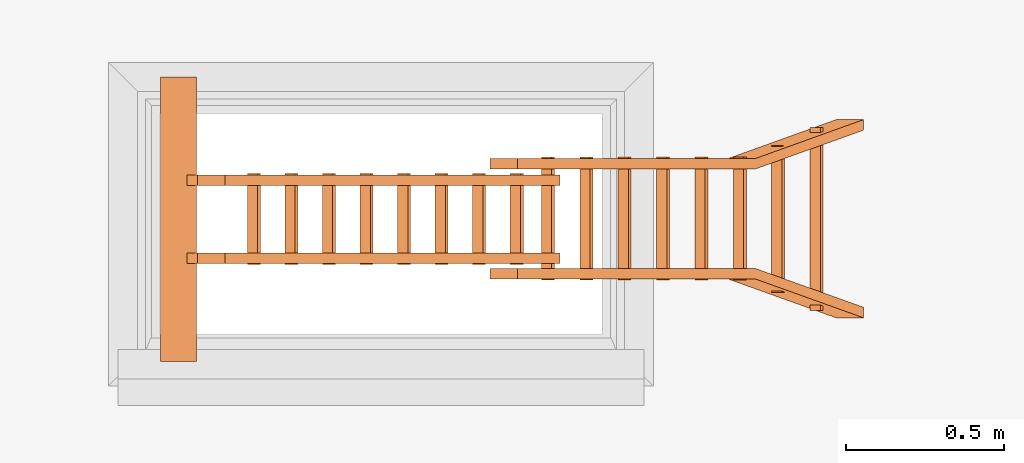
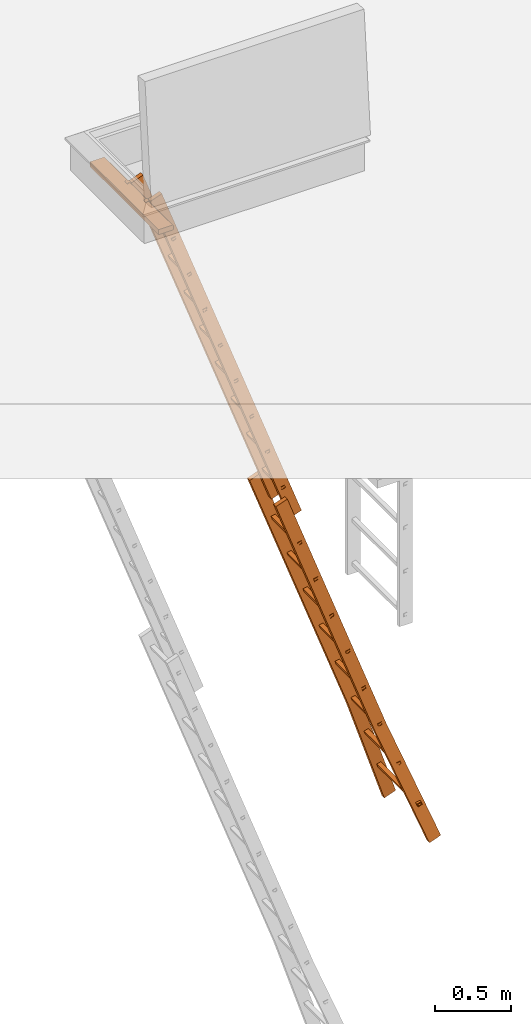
# One storey, part 8 of 28: 1 proxy, 2 openings.
"""IFC2X3 building model written with IfcOpenShell, lengths in millimetres."""

from ifc_helpers import new_model, entity, si_unit, converted_unit, derived_unit, direction, frame, frame_2d, origin, origin_2d_with_axis, place, context, subcontext, project, spatial, polyline, circle_curve, parameter, trimmed, segment, composite_curve, rectangle, outline, extrude, source, transform, mapped, type_object, type_shapes, element, save


model = new_model("IFC2X3")

# Units and contexts
model_context = context("Model", 3, precision=0.01, world=origin(), true_north=direction((6.12303176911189e-17, 1.0)))
body_context = subcontext(model_context, "Body", "Model", "MODEL_VIEW")
ifc_project = project(units=[si_unit("LENGTHUNIT", "METRE", prefix="MILLI"), si_unit("AREAUNIT", "SQUARE_METRE"), si_unit("VOLUMEUNIT", "CUBIC_METRE"), converted_unit("PLANEANGLEUNIT", "DEGREE", entity("IfcRatioMeasure", 0.0174532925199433), si_unit("PLANEANGLEUNIT", "RADIAN"), dimensions=[0, 0, 0, 0, 0, 0, 0]), si_unit("MASSUNIT", "GRAM", prefix="KILO"), derived_unit("MASSDENSITYUNIT", [(si_unit("MASSUNIT", "GRAM", prefix="KILO"), 1), (si_unit("LENGTHUNIT", "METRE"), -3)]), si_unit("TIMEUNIT", "SECOND"), si_unit("FREQUENCYUNIT", "HERTZ"), si_unit("THERMODYNAMICTEMPERATUREUNIT", "DEGREE_CELSIUS"), derived_unit("THERMALTRANSMITTANCEUNIT", [(si_unit("MASSUNIT", "GRAM", prefix="KILO"), 1), (si_unit("THERMODYNAMICTEMPERATUREUNIT", "KELVIN"), -1), (si_unit("TIMEUNIT", "SECOND"), -3)]), derived_unit("VOLUMETRICFLOWRATEUNIT", [(si_unit("LENGTHUNIT", "METRE"), 3), (si_unit("TIMEUNIT", "SECOND"), -1)]), si_unit("ELECTRICCURRENTUNIT", "AMPERE"), si_unit("ELECTRICVOLTAGEUNIT", "VOLT"), si_unit("POWERUNIT", "WATT"), si_unit("FORCEUNIT", "NEWTON", prefix="KILO"), si_unit("ILLUMINANCEUNIT", "LUX"), si_unit("LUMINOUSFLUXUNIT", "LUMEN"), si_unit("LUMINOUSINTENSITYUNIT", "CANDELA"), derived_unit("USERDEFINED", [(si_unit("MASSUNIT", "GRAM", prefix="KILO"), -1), (si_unit("LENGTHUNIT", "METRE"), -2), (si_unit("TIMEUNIT", "SECOND"), 3), (si_unit("LUMINOUSFLUXUNIT", "LUMEN"), 1)]), derived_unit("LINEARVELOCITYUNIT", [(si_unit("LENGTHUNIT", "METRE"), 1), (si_unit("TIMEUNIT", "SECOND"), -1)]), si_unit("PRESSUREUNIT", "PASCAL"), derived_unit("USERDEFINED", [(si_unit("LENGTHUNIT", "METRE"), -2), (si_unit("MASSUNIT", "GRAM", prefix="KILO"), 1), (si_unit("TIMEUNIT", "SECOND"), -2)])], contexts=[model_context])

# Site, building, storey
site_placement = place(None, origin())
site = spatial("IfcSite", under=ifc_project, at=site_placement, Name="Default", CompositionType="ELEMENT")
building_placement = place(site_placement, origin())
building = spatial("IfcBuilding", under=site, at=building_placement, CompositionType="ELEMENT")
storey_placement = place(building_placement, frame((0.0, 0.0, 4000.0)))
storey = spatial("IfcBuildingStorey", under=building, at=storey_placement, Name="Level 2", CompositionType="ELEMENT", Elevation=4000.0)

# Proxy, openings
building_element_proxy_type = type_object("IfcBuildingElementProxyType", Name="9_Topaccess_Trap_2delige1", PredefinedType="NOTDEFINED")
shared_shape = source(origin(), body_context, "Body", "SweptSolid", [
    extrude(outline(composite_curve([segment(polyline([(-20.0, -72.7589570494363), (20.0, -72.7589570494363)]), True, "CONTINUOUS"), segment(polyline([(20.0, -72.7589570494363), (20.0, 31.9980683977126)]), True, "CONTINUOUS"), segment(trimmed(circle_curve(frame_2d((10.2609571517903, 30.9957536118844), x_axis=(0.939692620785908, -0.342020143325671)), 9.79048469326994), [parameter(25.876031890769)], [parameter(105.876031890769)], True, "PARAMETER"), True, "CONTINUOUS"), segment(polyline([(10.9650368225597, 40.760888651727), (-10.9650368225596, 40.760888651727)]), True, "CONTINUOUS"), segment(trimmed(circle_curve(frame_2d((-10.2609571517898, 30.9957536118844), x_axis=(0.939692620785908, -0.342020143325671)), 9.79048469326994), [parameter(114.123968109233)], [parameter(194.123968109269)], True, "PARAMETER"), True, "CONTINUOUS"), segment(polyline([(-20.0, 31.9980683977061), (-20.0, -72.7589570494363)]), True, "CONTINUOUS")], self_intersect=False)), frame((-484.291584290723, -2.37763803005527, 9.64187826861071), z_axis=(1.0, 0.0, 0.0), x_axis=(0.0, 0.939692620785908, 0.34202014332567)), (0.0, 0.0, 1.0), 900.0),
    extrude(outline(composite_curve([segment(polyline([(-21.0941155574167, -85.4663572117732), (-18.0941155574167, -85.4663572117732)]), True, "CONTINUOUS"), segment(polyline([(-18.0941155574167, -85.4663572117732), (-18.0941155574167, 34.533772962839)]), True, "CONTINUOUS"), segment(trimmed(circle_curve(frame_2d((0.281515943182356, 34.5337729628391), x_axis=(0.0, 1.0)), 18.3756315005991), [parameter(284.219953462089)], [parameter(90.0000000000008)], True, "PARAMETER"), False, "CONTINUOUS"), segment(polyline([(18.0941155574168, 39.047654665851), (18.0941155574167, 11.7050015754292)]), True, "CONTINUOUS"), segment(polyline([(18.0941155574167, 11.7050015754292), (21.0941155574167, 11.7050015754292)]), True, "CONTINUOUS"), segment(polyline([(21.0941155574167, 11.7050015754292), (21.0941155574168, 39.4075106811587)]), True, "CONTINUOUS"), segment(trimmed(circle_curve(frame_2d((0.281515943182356, 34.5337729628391), x_axis=(0.0, 1.0)), 21.3756315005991), [parameter(283.179609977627)], [parameter(89.9999999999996)], True, "PARAMETER"), True, "CONTINUOUS"), segment(polyline([(-21.0941155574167, 34.5337729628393), (-21.0941155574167, -85.4663572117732)]), True, "CONTINUOUS")], self_intersect=False)), frame((72.0, -40.2373925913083, 36.9030783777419), z_axis=(1.0, 0.0, 0.0), x_axis=(0.0, 0.0, -1.0)), (0.0, 0.0, 1.0), 33.0),
    extrude(outline(composite_curve([segment(polyline([(-34.5337729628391, -21.0941155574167), (85.4663572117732, -21.0941155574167)]), True, "CONTINUOUS"), segment(polyline([(85.4663572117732, -21.0941155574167), (85.4663572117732, -18.0941155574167)]), True, "CONTINUOUS"), segment(polyline([(85.4663572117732, -18.0941155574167), (-34.5337729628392, -18.0941155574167)]), True, "CONTINUOUS"), segment(trimmed(circle_curve(frame_2d((-34.5337729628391, 0.281515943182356), x_axis=(-1.0, 0.0)), 18.3756315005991), [parameter(284.219953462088)], [parameter(90.0)], True, "PARAMETER"), False, "CONTINUOUS"), segment(polyline([(-39.047654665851, 18.0941155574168), (-11.7050015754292, 18.0941155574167)]), True, "CONTINUOUS"), segment(polyline([(-11.7050015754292, 18.0941155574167), (-11.7050015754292, 21.0941155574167)]), True, "CONTINUOUS"), segment(polyline([(-11.7050015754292, 21.0941155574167), (-39.407510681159, 21.0941155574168)]), True, "CONTINUOUS"), segment(trimmed(circle_curve(frame_2d((-34.5337729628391, 0.281515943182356), x_axis=(-1.0, 0.0)), 21.3756315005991), [parameter(283.179609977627)], [parameter(89.9999999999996)], True, "PARAMETER"), True, "CONTINUOUS")], self_intersect=False)), frame((-175.0, -40.2373925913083, 36.9030783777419), z_axis=(1.0, 0.0, 0.0), x_axis=(0.0, -1.0, 0.0)), (0.0, 0.0, 1.0), 33.0000000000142),
    extrude(rectangle(XDim=33.0000000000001, YDim=3099.99999999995, at=frame_2d((-3.30000000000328, 283.551511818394), x_axis=(1.0, 0.0))), frame((85.2, -1266.44848818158, 58.0), z_axis=(0.0, 0.0, 1.0), x_axis=(-1.0, 0.0, 0.0)), (0.0, 0.0, 1.0), 92.0),
    extrude(rectangle(XDim=3099.99999999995, YDim=33.0000000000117, at=frame_2d((-283.551511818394, 3.30000000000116), x_axis=(1.0, 0.0))), frame((-155.19999999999, -1266.44848818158, 58.0), z_axis=(0.0, 0.0, 1.0), x_axis=(0.0, 1.0, 0.0)), (0.0, 0.0, 1.0), 92.0),
    extrude(outline(polyline([(-11.5216143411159, -16.5000000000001), (13.8405381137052, -16.5000000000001), (13.8405381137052, 16.5), (-16.1594618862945, 16.5000000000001), (-11.5216143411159, -16.5000000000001)]), holes=[polyline([(8.84053811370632, -11.5000000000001), (-7.1751806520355, -11.5000000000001), (-10.4076198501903, 11.5000000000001), (8.84053811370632, 11.5), (8.84053811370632, -11.5000000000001)])]), frame((-227.077291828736, -3293.01909964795, 39.0843884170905), z_axis=(1.0, 0.0, 0.0), x_axis=(0.0, -1.0, 0.0)), (0.0, 0.0, 1.0), 389.077291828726),
    extrude(outline(polyline([(-11.5216143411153, -16.5000000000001), (13.8405381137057, -16.5000000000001), (13.8405381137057, 16.5), (-16.159461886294, 16.5000000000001), (-11.5216143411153, -16.5000000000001)]), holes=[polyline([(8.84053811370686, -11.5000000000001), (-7.17518065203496, -11.5000000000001), (-10.4076198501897, 11.5000000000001), (8.84053811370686, 11.5), (8.84053811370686, -11.5000000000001)])]), frame((-227.077291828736, -3648.01909964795, 39.0843884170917), z_axis=(1.0, 0.0, 0.0), x_axis=(0.0, -1.0, 0.0)), (0.0, 0.0, 1.0), 389.077291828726),
    extrude(outline(polyline([(-11.5216143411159, -16.5000000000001), (13.8405381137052, -16.5000000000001), (13.8405381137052, 16.5), (-16.1594618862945, 16.5000000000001), (-11.5216143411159, -16.5000000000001)]), holes=[polyline([(8.84053811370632, -11.5000000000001), (-7.1751806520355, -11.5000000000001), (-10.4076198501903, 11.5000000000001), (8.84053811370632, 11.5), (8.84053811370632, -11.5000000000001)])]), frame((-227.077291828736, -4003.01909964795, 39.0843884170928), z_axis=(1.0, 0.0, 0.0), x_axis=(0.0, -1.0, 0.0)), (0.0, 0.0, 1.0), 389.077291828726),
    extrude(outline(polyline([(-11.5216143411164, -16.5000000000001), (13.8405381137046, -16.5000000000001), (13.8405381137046, 16.5), (-16.159461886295, 16.5000000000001), (-11.5216143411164, -16.5000000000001)]), holes=[polyline([(8.84053811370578, -11.5000000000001), (-7.17518065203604, -11.5000000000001), (-10.4076198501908, 11.5000000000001), (8.84053811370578, 11.5), (8.84053811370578, -11.5000000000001)])]), frame((-227.077291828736, -4358.01909964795, 39.0843884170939), z_axis=(1.0, 0.0, 0.0), x_axis=(0.0, -1.0, 0.0)), (0.0, 0.0, 1.0), 389.077291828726),
    extrude(outline(polyline([(-11.5216143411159, -16.5000000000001), (13.8405381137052, -16.5000000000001), (13.8405381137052, 16.5), (-16.1594618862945, 16.5000000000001), (-11.5216143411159, -16.5000000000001)]), holes=[polyline([(8.84053811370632, -11.5000000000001), (-7.1751806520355, -11.5000000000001), (-10.4076198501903, 11.5000000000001), (8.84053811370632, 11.5), (8.84053811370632, -11.5000000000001)])]), frame((-227.077291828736, -4713.01909964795, 39.0843884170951), z_axis=(1.0, 0.0, 0.0), x_axis=(0.0, -1.0, 0.0)), (0.0, 0.0, 1.0), 389.077291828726),
    extrude(outline(polyline([(-11.5216143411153, -16.5000000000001), (13.8405381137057, -16.5000000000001), (13.8405381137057, 16.5), (-16.159461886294, 16.5000000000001), (-11.5216143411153, -16.5000000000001)]), holes=[polyline([(8.84053811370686, -11.5000000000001), (-7.17518065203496, -11.5000000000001), (-10.4076198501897, 11.5000000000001), (8.84053811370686, 11.5), (8.84053811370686, -11.5000000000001)])]), frame((-227.077291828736, -5068.01909964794, 39.0843884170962), z_axis=(1.0, 0.0, 0.0), x_axis=(0.0, -1.0, 0.0)), (0.0, 0.0, 1.0), 389.077291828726),
    extrude(outline(polyline([(-11.5216143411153, -16.5000000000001), (13.8405381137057, -16.5000000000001), (13.8405381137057, 16.5), (-16.159461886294, 16.5000000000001), (-11.5216143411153, -16.5000000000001)]), holes=[polyline([(8.84053811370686, -11.5000000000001), (-7.17518065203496, -11.5000000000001), (-10.4076198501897, 11.5000000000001), (8.84053811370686, 11.5), (8.84053811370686, -11.5000000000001)])]), frame((-266.000121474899, -5423.01909964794, 39.0843884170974), z_axis=(1.0, 0.0, 0.0), x_axis=(0.0, -1.0, 0.0)), (0.0, 0.0, 1.0), 465.000121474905),
    extrude(outline(polyline([(-11.5216143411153, -16.5000000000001), (13.8405381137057, -16.5000000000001), (13.8405381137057, 16.5), (-16.159461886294, 16.5000000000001), (-11.5216143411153, -16.5000000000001)]), holes=[polyline([(8.84053811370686, -11.5000000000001), (-7.17518065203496, -11.5000000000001), (-10.4076198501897, 11.5000000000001), (8.84053811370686, 11.5), (8.84053811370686, -11.5000000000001)])]), frame((-323.951711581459, -5778.01909964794, 39.0843884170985), z_axis=(1.0, 0.0, 0.0), x_axis=(0.0, -1.0, 0.0)), (0.0, 0.0, 1.0), 580.345535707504),
    extrude(outline(polyline([(388.026880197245, -105.667736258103), (1398.54073073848, -105.667736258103), (1402.59262124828, -72.6677362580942), (392.048568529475, -72.9137132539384), (-1788.59355619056, 194.835472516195), (-1792.61524452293, 162.081449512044), (388.026880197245, -105.667736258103)])), frame((181.59152386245, -4696.74475844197, -12.0), z_axis=(0.0, 0.0, 1.0), x_axis=(0.121869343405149, -0.992546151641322, 0.0)), (0.0, 0.0, 1.0), 92.0),
    extrude(outline(polyline([(390.379133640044, 72.7087324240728), (1402.92650822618, 72.7087324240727), (1398.87461771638, 105.708732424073), (388.360767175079, 105.708732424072), (-1792.28135754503, -162.040453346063), (-1788.25966921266, -194.794476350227), (390.379133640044, 72.7087324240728)])), frame((-247.591523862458, -4696.40836403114, -12.0), z_axis=(0.0, 0.0, 1.0), x_axis=(-0.121869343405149, -0.992546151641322, 0.0)), (0.0, 0.0, 1.0), 92.0),
    extrude(outline(polyline([(-11.5216143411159, -16.5), (13.8405381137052, -16.5), (13.8405381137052, 16.5), (-16.1594618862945, 16.5000000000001), (-11.5216143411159, -16.5)]), holes=[polyline([(8.84053811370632, -11.5), (-7.17518065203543, -11.5), (-10.4076198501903, 11.5), (8.84053811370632, 11.5), (8.84053811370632, -11.5)])]), frame((-178.583168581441, -401.863211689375, 101.084388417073), z_axis=(1.0, 0.0, 0.0), x_axis=(0.0, -1.0, 0.0)), (0.0, 0.0, 1.0), 288.583168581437),
    extrude(outline(polyline([(-11.5216143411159, -16.5), (13.8405381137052, -16.5), (13.8405381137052, 16.5), (-16.1594618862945, 16.5000000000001), (-11.5216143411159, -16.5)]), holes=[polyline([(8.84053811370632, -11.5), (-7.1751806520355, -11.5), (-10.4076198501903, 11.5000000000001), (8.84053811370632, 11.5), (8.84053811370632, -11.5)])]), frame((-178.583168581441, -749.363211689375, 101.084388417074), z_axis=(1.0, 0.0, 0.0), x_axis=(0.0, -1.0, 0.0)), (0.0, 0.0, 1.0), 288.583168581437),
    extrude(outline(polyline([(-11.5216143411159, -16.5), (13.8405381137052, -16.5), (13.8405381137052, 16.5), (-16.1594618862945, 16.5000000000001), (-11.5216143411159, -16.5)]), holes=[polyline([(8.84053811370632, -11.5), (-7.1751806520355, -11.5), (-10.4076198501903, 11.5), (8.84053811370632, 11.5), (8.84053811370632, -11.5)])]), frame((-178.583168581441, -1096.86321168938, 101.084388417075), z_axis=(1.0, 0.0, 0.0), x_axis=(0.0, -1.0, 0.0)), (0.0, 0.0, 1.0), 288.583168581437),
    extrude(outline(polyline([(-11.5216143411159, -16.5), (13.8405381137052, -16.5), (13.8405381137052, 16.5), (-16.1594618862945, 16.5000000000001), (-11.5216143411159, -16.5)]), holes=[polyline([(8.84053811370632, -11.5), (-7.1751806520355, -11.5), (-10.4076198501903, 11.5000000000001), (8.84053811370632, 11.5), (8.84053811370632, -11.5)])]), frame((-178.583168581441, -1444.36321168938, 101.084388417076), z_axis=(1.0, 0.0, 0.0), x_axis=(0.0, -1.0, 0.0)), (0.0, 0.0, 1.0), 288.583168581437),
    extrude(outline(polyline([(-11.5216143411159, -16.5), (13.8405381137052, -16.5), (13.8405381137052, 16.5), (-16.1594618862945, 16.5000000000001), (-11.5216143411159, -16.5)]), holes=[polyline([(8.84053811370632, -11.5), (-7.1751806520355, -11.5), (-10.4076198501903, 11.5000000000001), (8.84053811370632, 11.5), (8.84053811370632, -11.5)])]), frame((-178.583168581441, -1791.86321168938, 101.084388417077), z_axis=(1.0, 0.0, 0.0), x_axis=(0.0, -1.0, 0.0)), (0.0, 0.0, 1.0), 288.583168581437),
    extrude(outline(polyline([(-11.5216143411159, -16.5), (13.8405381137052, -16.5), (13.8405381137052, 16.5), (-16.1594618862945, 16.5000000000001), (-11.5216143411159, -16.5)]), holes=[polyline([(8.84053811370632, -11.5), (-7.1751806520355, -11.5), (-10.4076198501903, 11.5000000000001), (8.84053811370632, 11.5), (8.84053811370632, -11.5)])]), frame((-178.583168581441, -2139.36321168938, 101.084388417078), z_axis=(1.0, 0.0, 0.0), x_axis=(0.0, -1.0, 0.0)), (0.0, 0.0, 1.0), 288.583168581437),
    extrude(outline(polyline([(-11.5216143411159, -16.5), (13.8405381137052, -16.5), (13.8405381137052, 16.5), (-16.1594618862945, 16.5000000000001), (-11.5216143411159, -16.5)]), holes=[polyline([(8.84053811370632, -11.5), (-7.1751806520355, -11.5), (-10.4076198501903, 11.5), (8.84053811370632, 11.5), (8.84053811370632, -11.5)])]), frame((-178.583168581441, -2486.86321168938, 101.084388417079), z_axis=(1.0, 0.0, 0.0), x_axis=(0.0, -1.0, 0.0)), (0.0, 0.0, 1.0), 288.583168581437),
    extrude(outline(polyline([(-11.5216143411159, -16.5), (13.8405381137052, -16.5), (13.8405381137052, 16.5), (-16.1594618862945, 16.5000000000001), (-11.5216143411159, -16.5)]), holes=[polyline([(8.84053811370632, -11.5), (-7.1751806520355, -11.5), (-10.4076198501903, 11.5000000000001), (8.84053811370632, 11.5), (8.84053811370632, -11.5)])]), frame((-178.583168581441, -2834.36321168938, 101.08438841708), z_axis=(1.0, 0.0, 0.0), x_axis=(0.0, -1.0, 0.0)), (0.0, 0.0, 1.0), 288.583168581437),
])
type_shapes(building_element_proxy_type, [shared_shape])
proxy_placement = place(storey_placement, frame((1175.67118960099, 5823.78291614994, 411.357021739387), z_axis=(0.939692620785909, 0.0, 0.342020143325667), x_axis=(0.0, 1.0, 0.0)))
proxy = element("IfcBuildingElementProxy", 1, at=proxy_placement, inside=storey, type_object=building_element_proxy_type, Name="9_Topaccess_Trap_2delige1:9_Topaccess_Trap_2delige1", ObjectType="9_Topaccess_Trap_2delige1", context=body_context, shape_type="MappedRepresentation", body=[
    mapped(shared_shape, transform((0.0, 0.0, 0.0), scale=1.0)),
])
opening_1_placement = place(storey_placement, frame((1175.67118960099, 5823.78291614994, 4411.35702173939), z_axis=(0.321393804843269, 0.939692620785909, 0.116977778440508), x_axis=(-0.342020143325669, 0.0, 0.939692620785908)))
element("IfcOpeningElement", 2, at=opening_1_placement, cuts=proxy, Name="9_Topaccess_Trap_2delige1:9_Topaccess_Trap_2delige1:1", ObjectType="Opening", context=body_context, shape_type="SweptSolid", body=[
    extrude(rectangle(XDim=42.5298592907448, YDim=59.0000000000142, at=frame_2d((5.32907051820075e-15, 0.0), x_axis=(1.0, 0.0))), frame((16.836608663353, -3690.15737979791, -1511.77962294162), z_axis=(-0.939692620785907, -0.321393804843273, -0.116977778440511), x_axis=(-0.342020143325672, 0.883022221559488, 0.321393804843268)), (0.0, 0.0, 1.0), 40.0),
])
opening_2_placement = place(storey_placement, frame((1175.67118960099, 5823.78291614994, 4411.35702173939), z_axis=(0.321393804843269, 0.939692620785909, 0.116977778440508), x_axis=(-0.342020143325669, 0.0, 0.939692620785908)))
element("IfcOpeningElement", 3, at=opening_2_placement, cuts=proxy, Name="9_Topaccess_Trap_2delige1:9_Topaccess_Trap_2delige1:2", ObjectType="Opening", context=body_context, shape_type="SweptSolid", body=[
    extrude(rectangle(XDim=42.5298592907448, YDim=59.0000000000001, at=origin_2d_with_axis()), frame((16.8366086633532, -3774.63635519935, -1279.6755456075), z_axis=(-0.939692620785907, -0.321393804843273, -0.116977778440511), x_axis=(-0.342020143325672, 0.883022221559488, 0.321393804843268)), (0.0, 0.0, 1.0), 40.0),
])

save(model, "model.ifc")
